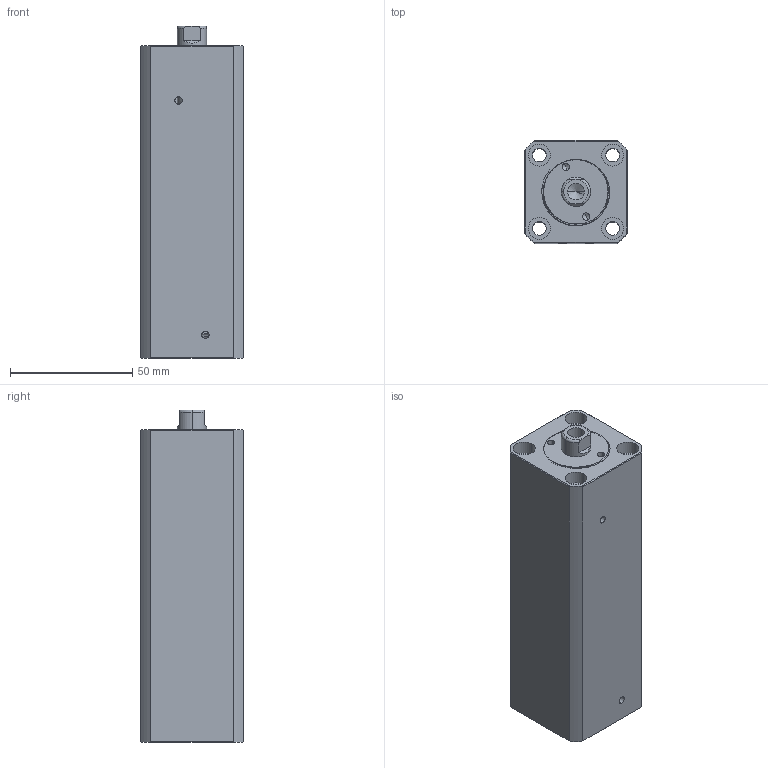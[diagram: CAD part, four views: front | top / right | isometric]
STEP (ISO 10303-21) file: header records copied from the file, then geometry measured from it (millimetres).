
FILE_DESCRIPTION (( 'STEP AP214' ), '1' );
FILE_NAME ('chtb-sdmb20x85n_asm.STEP', '2018-05-18T08:30:20', ( 'Windows' ), ( 'Microsoft' ), 'SwSTEP 2.0', 'SolidWorks 2015', '' );
FILE_SCHEMA (( 'AUTOMOTIVE_DESIGN' ));
Length unit declared in the file: millimetre
Products named in the file (4): QG_3; CHTB-SDMB20X85NHSG; CHTB-SDMB20X85NBT; chtb-sdmb20x85n_asm
Assembly tree (3 placements, depth 2):
  chtb-sdmb20x85n_asm
    CHTB-SDMB20X85NBT
    CHTB-SDMB20X85NHSG
    QG_3
Bounding box: 42 x 42 x 136 mm (x, y, z)
Volume: 188570.2 mm3; surface area: 53012.4 mm2
Topology: 3 solids, 3 shells, 201 faces, 535 edges, 354 vertices
Faces by surface type: cylinder 106, plane 43, torus 25, bspline 21, cone 6
Entity records: 11558 total; most frequent: CARTESIAN_POINT 6663, ORIENTED_EDGE 1058, DIRECTION 922, EDGE_CURVE 529, AXIS2_PLACEMENT_3D 388, VERTEX_POINT 354, EDGE_LOOP 239, CIRCLE 202
